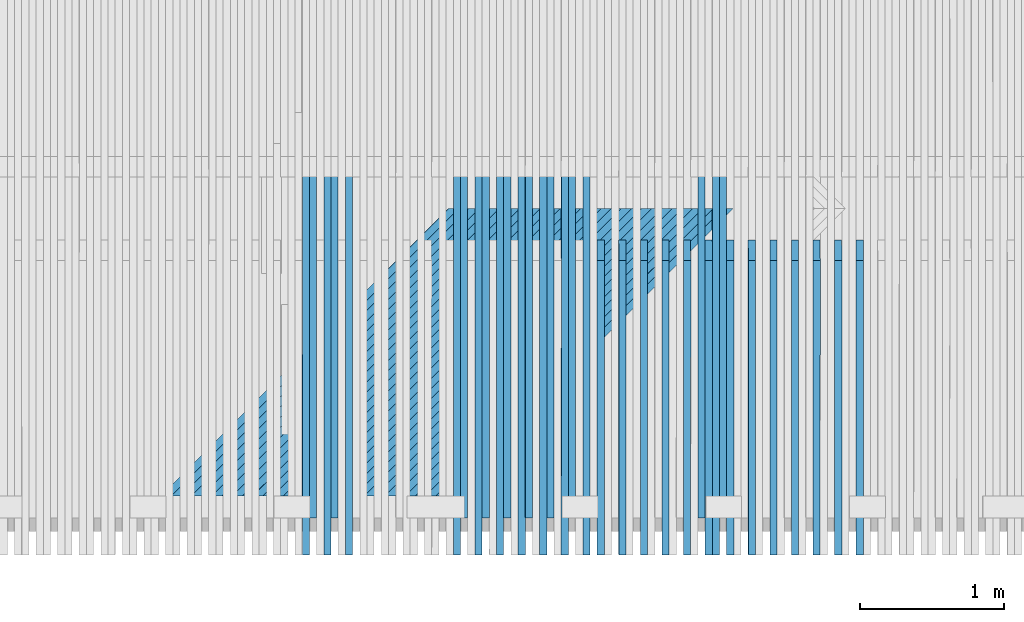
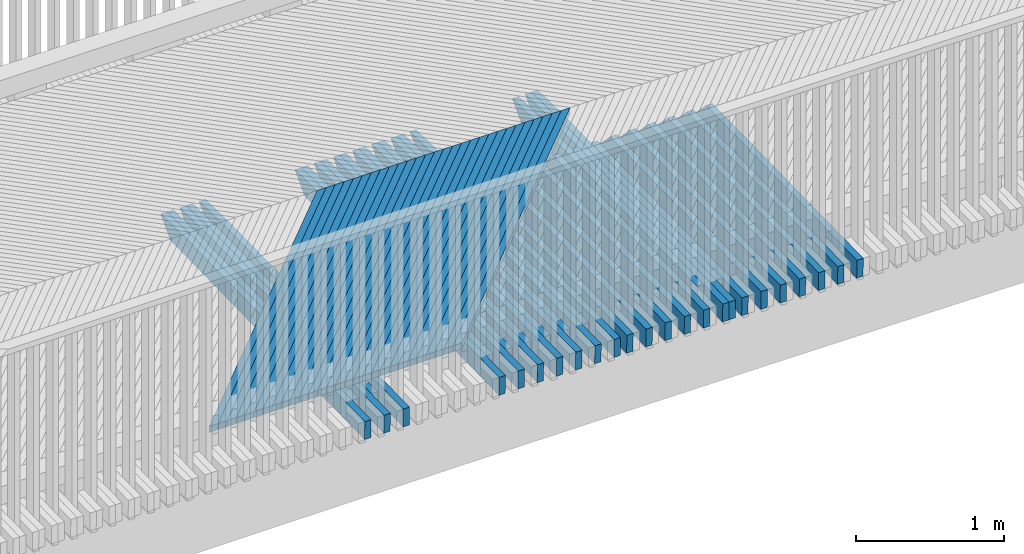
# One storey, part 30 of 47: 62 beams.
"""IFC2X3 building model written with IfcOpenShell, lengths in millimetres."""

from ifc_helpers import new_model, si_unit, frame, origin_with_axes, place, context, subcontext, project, spatial, faceted_brep, material, type_object, element, save


model = new_model("IFC2X3")

# Units and contexts
model_context = context("Model", 3, precision=1e-05, world=origin_with_axes())
body_context = subcontext(model_context, "Body", "Model", "MODEL_VIEW")
ifc_project = project(units=[si_unit("LENGTHUNIT", "METRE", prefix="MILLI"), si_unit("AREAUNIT", "SQUARE_METRE"), si_unit("VOLUMEUNIT", "CUBIC_METRE"), si_unit("MASSUNIT", "GRAM", prefix="KILO"), si_unit("TIMEUNIT", "SECOND"), si_unit("PLANEANGLEUNIT", "RADIAN"), si_unit("SOLIDANGLEUNIT", "STERADIAN"), si_unit("THERMODYNAMICTEMPERATUREUNIT", "DEGREE_CELSIUS"), si_unit("LUMINOUSINTENSITYUNIT", "LUMEN")], contexts=[model_context])

# Site, building, storey
site_placement = place(None, origin_with_axes())
site = spatial("IfcSite", under=ifc_project, at=site_placement, Name="Undefined", CompositionType="ELEMENT")
building_placement = place(site_placement, origin_with_axes())
building = spatial("IfcBuilding", under=site, at=building_placement, Name="Undefined", CompositionType="ELEMENT")
storey_placement = place(building_placement, origin_with_axes())
storey = spatial("IfcBuildingStorey", under=building, at=storey_placement, Name="Undefined", CompositionType="ELEMENT", Elevation=0.0)

# Beams
ifc_material = material(Name="TIMBER/Timber_Undefined")
beam_type_1 = type_object("IfcBeamType", Name="150*50", PredefinedType="NOTDEFINED")
for number, where, z_axis, x_axis, name in (
    (1, (11950.5710142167, 59958.5561921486, 3075.02655760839), (0.00648046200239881, -0.0199960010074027, 0.999779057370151), (0.000129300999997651, 0.999800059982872, 0.0199955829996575), "BEAM"),
    (2, (11800.5453592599, 59958.5561921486, 3075.99247467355), (0.00623128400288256, -0.0199960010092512, 0.999780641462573), (0.000124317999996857, 0.999800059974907, 0.0199956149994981), "BEAM"),
    (3, (11650.5194682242, 59958.5561921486, 3076.92100036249), (0.005982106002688, -0.0199960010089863, 0.999782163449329), (0.000119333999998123, 0.999800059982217, 0.0199956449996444), "BEAM"),
    (4, (11500.4933504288, 59958.5561921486, 3077.81213461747), (0.00573292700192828, -0.0199960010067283, 0.999783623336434), (0.000114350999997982, 0.999800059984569, 0.0199956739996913), "BEAM"),
    (5, (11350.4670151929, 59958.5561921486, 3078.66587738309), (0.00548374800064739, -0.0199960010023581, 0.99978502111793), (0.000109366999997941, 0.999800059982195, 0.019995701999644), "BEAM"),
    (6, (11200.4404718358, 59958.5561921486, 3079.48222860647), (0.00523456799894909, -0.0199960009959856, 0.999786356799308), (0.000104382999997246, 0.999800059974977, 0.0199957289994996), "BEAM"),
    (7, (11050.4137296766, 59958.5561921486, 3080.26118823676), (0.00498538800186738, -0.0199960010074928, 0.999787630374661), (9.93999999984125e-05, 0.999800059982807, 0.0199957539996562), "BEAM"),
):
    element("IfcBeam", number, at=place(storey_placement, frame(where, z_axis=z_axis, x_axis=x_axis)), inside=storey, type_object=beam_type_1, material=ifc_material, Name=name, ObjectType="150*50", context=body_context, shape_type="Brep", body=[
        faceted_brep([(6.18456397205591e-09, -24.9999999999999, -75.0000000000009), (-6.1918399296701e-09, -24.9999999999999, 74.9999999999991), (-6.19911588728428e-09, 25.0, 75.0), (6.18456397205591e-09, 24.9999999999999, -75.0), (2047.96936034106, -25.0000000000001, 75.0), (2047.96935975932, 25.0, 75.0), (2186.42645864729, 25.0, -75.0), (2186.42645915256, -25.0000000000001, -75.0)], [[[0, 1, 2, 3]], [[2, 1, 4, 5]], [[3, 2, 5, 6]], [[0, 3, 6, 7]], [[1, 0, 7, 4]], [[4, 7, 6, 5]]]),
    ])
beam_1_placement = place(storey_placement, frame((11000.3544131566, 60216.5046076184, 3085.67048511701), z_axis=(0.00498538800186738, -0.0199960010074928, 0.999787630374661), x_axis=(9.93999999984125e-05, 0.999800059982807, 0.0199957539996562)))
element("IfcBeam", 8, at=beam_1_placement, inside=storey, type_object=beam_type_1, material=ifc_material, Name="BEAM", ObjectType="150*50", context=body_context, shape_type="Brep", body=[
    faceted_brep([(6.18456397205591e-09, -24.9999999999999, -75.0000000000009), (-6.1918399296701e-09, -24.9999999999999, 74.9999999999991), (-6.19911588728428e-09, 25.0, 75.0), (6.18456397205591e-09, 24.9999999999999, -75.0), (2375.00494220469, 24.9999999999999, -75.0000000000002), (2375.00494218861, -25.0, -75.0), (2510.59248711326, -25.0, 60.5875455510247), (2150.42518973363, -25.0, 75.0000000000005), (2150.42518840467, 25.0, 74.9999999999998), (2510.59248707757, 25.0, 60.5875454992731)], [[[0, 1, 2, 3]], [[0, 3, 4, 5]], [[1, 0, 5, 6, 7]], [[2, 1, 7, 8]], [[4, 3, 2, 8, 9]], [[5, 4, 9, 6]], [[8, 7, 6, 9]]]),
])
beam_2_placement = place(storey_placement, frame((10950.4247696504, 59958.5561921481, 3080.75824977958), z_axis=(0.00490302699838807, -0.0199960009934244, 0.999788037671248), x_axis=(9.80599999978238e-05, 0.999800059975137, 0.0199957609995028)))
element("IfcBeam", 9, at=beam_2_placement, inside=storey, type_object=beam_type_1, material=ifc_material, Name="BEAM", ObjectType="150*50", context=body_context, shape_type="Brep", body=[
    faceted_brep([(6.18456397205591e-09, -24.9999999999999, -75.0000000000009), (-6.1918399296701e-09, -24.9999999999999, 74.9999999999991), (-6.19911588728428e-09, 25.0, 75.0), (6.18456397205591e-09, 24.9999999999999, -75.0), (2633.00494983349, 25.0000000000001, -75.0000000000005), (2633.00495050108, -24.9999999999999, -75.0000000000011), (2768.59248707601, -25.0, 60.5875366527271), (2408.42499905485, -25.0, 74.9999999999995), (2408.42501428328, 25.0000000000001, 74.9999999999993), (2768.5924870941, 25.0, 60.5875375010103)], [[[0, 1, 2, 3]], [[0, 3, 4, 5]], [[1, 0, 5, 6, 7]], [[2, 1, 7, 8]], [[4, 3, 2, 8, 9]], [[5, 4, 9, 6]], [[8, 7, 6, 9]]]),
])
beam_3_placement = place(storey_placement, frame((10900.3867980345, 59958.5561921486, 3081.00275622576), z_axis=(0.00473620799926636, -0.019996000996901, 0.999788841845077), x_axis=(9.44159999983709e-05, 0.999800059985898, 0.019995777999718)))
element("IfcBeam", 10, at=beam_3_placement, inside=storey, type_object=beam_type_1, material=ifc_material, Name="BEAM", ObjectType="150*50", context=body_context, shape_type="Brep", body=[
    faceted_brep([(6.18456397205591e-09, -24.9999999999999, -75.0000000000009), (-6.1918399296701e-09, -24.9999999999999, 74.9999999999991), (-6.19911588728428e-09, 25.0, 75.0), (6.18456397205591e-09, 24.9999999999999, -75.0), (2047.96936034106, -25.0000000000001, 75.0), (2047.96935975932, 25.0, 75.0), (2186.42645864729, 25.0, -75.0), (2186.42645915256, -25.0000000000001, -75.0)], [[[0, 1, 2, 3]], [[2, 1, 4, 5]], [[3, 2, 5, 6]], [[0, 3, 6, 7]], [[1, 0, 7, 4]], [[4, 7, 6, 5]]]),
])
beam_4_placement = place(storey_placement, frame((10850.326134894, 60216.5046076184, 3086.39957650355), z_axis=(0.00473620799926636, -0.019996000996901, 0.999788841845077), x_axis=(9.44159999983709e-05, 0.999800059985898, 0.019995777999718)))
element("IfcBeam", 11, at=beam_4_placement, inside=storey, type_object=beam_type_1, material=ifc_material, Name="BEAM", ObjectType="150*50", context=body_context, shape_type="Brep", body=[
    faceted_brep([(6.18456397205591e-09, -24.9999999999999, -75.0000000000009), (-6.1918399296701e-09, -24.9999999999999, 74.9999999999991), (-6.19911588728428e-09, 25.0, 75.0), (6.18456397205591e-09, 24.9999999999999, -75.0), (2375.00494220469, 24.9999999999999, -75.0000000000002), (2375.00494218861, -25.0, -75.0), (2510.59248711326, -25.0, 60.5875455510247), (2150.42518973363, -25.0, 75.0000000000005), (2150.42518840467, 25.0, 74.9999999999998), (2510.59248707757, 25.0, 60.5875454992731)], [[[0, 1, 2, 3]], [[0, 3, 4, 5]], [[1, 0, 5, 6, 7]], [[2, 1, 7, 8]], [[4, 3, 2, 8, 9]], [[5, 4, 9, 6]], [[8, 7, 6, 9]]]),
])
for number, where, z_axis, x_axis, name in (
    (12, (10750.3596862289, 59958.5561921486, 3081.70693252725), (0.00448702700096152, -0.019996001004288, 0.99978999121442), (8.94329999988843e-05, 0.999800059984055, 0.0199958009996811), "BEAM"),
    (13, (10600.3324035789, 59958.5561921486, 3082.37371709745), (0.00423784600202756, -0.0199960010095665, 0.999791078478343), (8.44489999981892e-05, 0.999800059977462, 0.0199958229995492), "BEAM"),
    (14, (10450.3049594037, 59958.5561921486, 3083.00310989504), (0.00398866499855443, -0.0199960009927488, 0.999792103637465), (7.94649999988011e-05, 0.999800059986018, 0.0199958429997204), "BEAM"),
    (15, (10300.2773630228, 59958.5561921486, 3083.59511088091), (0.00373948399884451, -0.0199960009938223, 0.999793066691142), (7.44819999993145e-05, 0.999800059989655, 0.019995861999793), "BEAM"),
    (16, (10150.2496237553, 59958.5561921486, 3084.14972001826), (0.00349030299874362, -0.0199960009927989, 0.99979396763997), (6.94979999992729e-05, 0.999800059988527, 0.0199958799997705), "BEAM"),
):
    element("IfcBeam", number, at=place(storey_placement, frame(where, z_axis=z_axis, x_axis=x_axis)), inside=storey, type_object=beam_type_1, material=ifc_material, Name=name, ObjectType="150*50", context=body_context, shape_type="Brep", body=[
        faceted_brep([(6.18456397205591e-09, -24.9999999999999, -75.0000000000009), (-6.1918399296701e-09, -24.9999999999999, 74.9999999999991), (-6.19911588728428e-09, 25.0, 75.0), (6.18456397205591e-09, 24.9999999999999, -75.0), (2047.96936034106, -25.0000000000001, 75.0), (2047.96935975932, 25.0, 75.0), (2186.42645864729, 25.0, -75.0), (2186.42645915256, -25.0000000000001, -75.0)], [[[0, 1, 2, 3]], [[2, 1, 4, 5]], [[3, 2, 5, 6]], [[0, 3, 6, 7]], [[1, 0, 7, 4]], [[4, 7, 6, 5]]]),
    ])
beam_5_placement = place(storey_placement, frame((10050.2600322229, 59958.5561921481, 3084.49725775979), z_axis=(0.00340794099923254, -0.0199960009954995, 0.999794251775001), x_axis=(6.81579999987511e-05, 0.999800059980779, 0.0199958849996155)))
element("IfcBeam", 17, at=beam_5_placement, inside=storey, type_object=beam_type_1, material=ifc_material, Name="BEAM", ObjectType="150*50", context=body_context, shape_type="Brep", body=[
    faceted_brep([(6.18456397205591e-09, -24.9999999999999, -75.0000000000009), (-6.1918399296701e-09, -24.9999999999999, 74.9999999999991), (-6.19911588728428e-09, 25.0, 75.0), (6.18456397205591e-09, 24.9999999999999, -75.0), (2633.00494983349, 25.0000000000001, -75.0000000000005), (2633.00495050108, -24.9999999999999, -75.0000000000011), (2768.59248707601, -25.0, 60.5875366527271), (2408.42499905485, -25.0, 74.9999999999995), (2408.42501428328, 25.0000000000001, 74.9999999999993), (2768.5924870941, 25.0, 60.5875375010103)], [[[0, 1, 2, 3]], [[0, 3, 4, 5]], [[1, 0, 5, 6, 7]], [[2, 1, 7, 8]], [[4, 3, 2, 8, 9]], [[5, 4, 9, 6]], [[8, 7, 6, 9]]]),
])
beam_6_placement = place(storey_placement, frame((9950.1530733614, 60216.5046076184, 3089.98889092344), z_axis=(0.00324112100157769, -0.0199960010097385, 0.999794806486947), x_axis=(6.45149999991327e-05, 0.999800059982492, 0.0199958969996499)))
element("IfcBeam", 18, at=beam_6_placement, inside=storey, type_object=beam_type_1, material=ifc_material, Name="BEAM", ObjectType="150*50", context=body_context, shape_type="Brep", body=[
    faceted_brep([(6.18456397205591e-09, -24.9999999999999, -75.0000000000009), (-6.1918399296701e-09, -24.9999999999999, 74.9999999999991), (-6.19911588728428e-09, 25.0, 75.0), (6.18456397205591e-09, 24.9999999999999, -75.0), (2375.00494220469, 24.9999999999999, -75.0000000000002), (2375.00494218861, -25.0, -75.0), (2510.59248711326, -25.0, 60.5875455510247), (2150.42518973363, -25.0, 75.0000000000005), (2150.42518840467, 25.0, 74.9999999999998), (2510.59248707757, 25.0, 60.5875454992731)], [[[0, 1, 2, 3]], [[0, 3, 4, 5]], [[1, 0, 5, 6, 7]], [[2, 1, 7, 8]], [[4, 3, 2, 8, 9]], [[5, 4, 9, 6]], [[8, 7, 6, 9]]]),
])
beam_7_placement = place(storey_placement, frame((9900.23207587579, 59958.5561921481, 3084.98955429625), z_axis=(0.00315875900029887, -0.019996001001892, 0.999795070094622), x_axis=(6.31749999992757e-05, 0.999800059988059, 0.0199959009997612)))
element("IfcBeam", 19, at=beam_7_placement, inside=storey, type_object=beam_type_1, material=ifc_material, Name="BEAM", ObjectType="150*50", context=body_context, shape_type="Brep", body=[
    faceted_brep([(6.18456397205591e-09, -24.9999999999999, -75.0000000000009), (-6.1918399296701e-09, -24.9999999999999, 74.9999999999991), (-6.19911588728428e-09, 25.0, 75.0), (6.18456397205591e-09, 24.9999999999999, -75.0), (2633.00494983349, 25.0000000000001, -75.0000000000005), (2633.00495050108, -24.9999999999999, -75.0000000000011), (2768.59248707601, -25.0, 60.5875366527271), (2408.42499905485, -25.0, 74.9999999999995), (2408.42501428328, 25.0000000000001, 74.9999999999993), (2768.5924870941, 25.0, 60.5875375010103)], [[[0, 1, 2, 3]], [[0, 3, 4, 5]], [[1, 0, 5, 6, 7]], [[2, 1, 7, 8]], [[4, 3, 2, 8, 9]], [[5, 4, 9, 6]], [[8, 7, 6, 9]]]),
])
beam_8_placement = place(storey_placement, frame((9800.12375142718, 60216.5046076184, 3090.4562373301), z_axis=(0.00299193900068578, -0.0199960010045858, 0.999795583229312), x_axis=(5.95309999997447e-05, 0.999800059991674, 0.0199959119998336)))
element("IfcBeam", 20, at=beam_8_placement, inside=storey, type_object=beam_type_1, material=ifc_material, Name="BEAM", ObjectType="150*50", context=body_context, shape_type="Brep", body=[
    faceted_brep([(6.18456397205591e-09, -24.9999999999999, -75.0000000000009), (-6.1918399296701e-09, -24.9999999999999, 74.9999999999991), (-6.19911588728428e-09, 25.0, 75.0), (6.18456397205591e-09, 24.9999999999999, -75.0), (2375.00494220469, 24.9999999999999, -75.0000000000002), (2375.00494218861, -25.0, -75.0), (2510.59248711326, -25.0, 60.5875455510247), (2150.42518973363, -25.0, 75.0000000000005), (2150.42518840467, 25.0, 74.9999999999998), (2510.59248707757, 25.0, 60.5875454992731)], [[[0, 1, 2, 3]], [[0, 3, 4, 5]], [[1, 0, 5, 6, 7]], [[2, 1, 7, 8]], [[4, 3, 2, 8, 9]], [[5, 4, 9, 6]], [[8, 7, 6, 9]]]),
])
beam_9_placement = place(storey_placement, frame((9750.20400149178, 59958.5561921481, 3085.44445889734), z_axis=(0.00290957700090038, -0.019996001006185, 0.99979582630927), x_axis=(5.81909999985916e-05, 0.999800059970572, 0.0199959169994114)))
element("IfcBeam", 21, at=beam_9_placement, inside=storey, type_object=beam_type_1, material=ifc_material, Name="BEAM", ObjectType="150*50", context=body_context, shape_type="Brep", body=[
    faceted_brep([(6.18456397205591e-09, -24.9999999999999, -75.0000000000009), (-6.1918399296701e-09, -24.9999999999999, 74.9999999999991), (-6.19911588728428e-09, 25.0, 75.0), (6.18456397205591e-09, 24.9999999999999, -75.0), (2633.00494983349, 25.0000000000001, -75.0000000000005), (2633.00495050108, -24.9999999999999, -75.0000000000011), (2768.59248707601, -25.0, 60.5875366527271), (2408.42499905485, -25.0, 74.9999999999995), (2408.42501428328, 25.0000000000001, 74.9999999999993), (2768.5924870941, 25.0, 60.5875375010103)], [[[0, 1, 2, 3]], [[0, 3, 4, 5]], [[1, 0, 5, 6, 7]], [[2, 1, 7, 8]], [[4, 3, 2, 8, 9]], [[5, 4, 9, 6]], [[8, 7, 6, 9]]]),
])
beam_10_placement = place(storey_placement, frame((9650.0943176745, 60216.5046076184, 3090.88619146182), z_axis=(0.00274275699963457, -0.0199960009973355, 0.999796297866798), x_axis=(5.45469999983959e-05, 0.999800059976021, 0.0199959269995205)))
element("IfcBeam", 22, at=beam_10_placement, inside=storey, type_object=beam_type_1, material=ifc_material, Name="BEAM", ObjectType="150*50", context=body_context, shape_type="Brep", body=[
    faceted_brep([(6.18456397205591e-09, -24.9999999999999, -75.0000000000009), (-6.1918399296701e-09, -24.9999999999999, 74.9999999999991), (-6.19911588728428e-09, 25.0, 75.0), (6.18456397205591e-09, 24.9999999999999, -75.0), (2375.00494220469, 24.9999999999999, -75.0000000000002), (2375.00494218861, -25.0, -75.0), (2510.59248711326, -25.0, 60.5875455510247), (2150.42518973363, -25.0, 75.0000000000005), (2150.42518840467, 25.0, 74.9999999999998), (2510.59248707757, 25.0, 60.5875454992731)], [[[0, 1, 2, 3]], [[0, 3, 4, 5]], [[1, 0, 5, 6, 7]], [[2, 1, 7, 8]], [[4, 3, 2, 8, 9]], [[5, 4, 9, 6]], [[8, 7, 6, 9]]]),
])
beam_11_placement = place(storey_placement, frame((9600.17581839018, 59958.5561921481, 3085.86197153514), z_axis=(0.00266039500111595, -0.0199960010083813, 0.999796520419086), x_axis=(5.3207999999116e-05, 0.999800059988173, 0.0199959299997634)))
element("IfcBeam", 23, at=beam_11_placement, inside=storey, type_object=beam_type_1, material=ifc_material, Name="BEAM", ObjectType="150*50", context=body_context, shape_type="Brep", body=[
    faceted_brep([(6.18456397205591e-09, -24.9999999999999, -75.0000000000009), (-6.1918399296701e-09, -24.9999999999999, 74.9999999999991), (-6.19911588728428e-09, 25.0, 75.0), (6.18456397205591e-09, 24.9999999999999, -75.0), (2633.00494983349, 25.0000000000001, -75.0000000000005), (2633.00495050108, -24.9999999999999, -75.0000000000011), (2768.59248707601, -25.0, 60.5875366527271), (2408.42499905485, -25.0, 74.9999999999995), (2408.42501428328, 25.0000000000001, 74.9999999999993), (2768.5924870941, 25.0, 60.5875375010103)], [[[0, 1, 2, 3]], [[0, 3, 4, 5]], [[1, 0, 5, 6, 7]], [[2, 1, 7, 8]], [[4, 3, 2, 8, 9]], [[5, 4, 9, 6]], [[8, 7, 6, 9]]]),
])
beam_12_placement = place(storey_placement, frame((9500.06478142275, 60216.5046076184, 3091.2787532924), z_axis=(0.00249357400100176, -0.019996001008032, 0.999796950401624), x_axis=(4.95639999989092e-05, 0.999800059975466, 0.0199959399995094)))
element("IfcBeam", 24, at=beam_12_placement, inside=storey, type_object=beam_type_1, material=ifc_material, Name="BEAM", ObjectType="150*50", context=body_context, shape_type="Brep", body=[
    faceted_brep([(6.18456397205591e-09, -24.9999999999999, -75.0000000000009), (-6.1918399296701e-09, -24.9999999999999, 74.9999999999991), (-6.19911588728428e-09, 25.0, 75.0), (6.18456397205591e-09, 24.9999999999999, -75.0), (2375.00494220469, 24.9999999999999, -75.0000000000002), (2375.00494218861, -25.0, -75.0), (2510.59248711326, -25.0, 60.5875455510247), (2150.42518973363, -25.0, 75.0000000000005), (2150.42518840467, 25.0, 74.9999999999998), (2510.59248707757, 25.0, 60.5875454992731)], [[[0, 1, 2, 3]], [[0, 3, 4, 5]], [[1, 0, 5, 6, 7]], [[2, 1, 7, 8]], [[4, 3, 2, 8, 9]], [[5, 4, 9, 6]], [[8, 7, 6, 9]]]),
])
beam_13_placement = place(storey_placement, frame((9450.14753589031, 59958.5561921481, 3086.24209218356), z_axis=(0.00241121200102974, -0.0199960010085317, 0.999797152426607), x_axis=(4.82239999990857e-05, 0.999800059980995, 0.01999594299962)))
element("IfcBeam", 25, at=beam_13_placement, inside=storey, type_object=beam_type_1, material=ifc_material, Name="BEAM", ObjectType="150*50", context=body_context, shape_type="Brep", body=[
    faceted_brep([(6.18456397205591e-09, -24.9999999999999, -75.0000000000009), (-6.1918399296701e-09, -24.9999999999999, 74.9999999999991), (-6.19911588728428e-09, 25.0, 75.0), (6.18456397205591e-09, 24.9999999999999, -75.0), (2633.00494983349, 25.0000000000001, -75.0000000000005), (2633.00495050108, -24.9999999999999, -75.0000000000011), (2768.59248707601, -25.0, 60.5875366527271), (2408.42499905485, -25.0, 74.9999999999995), (2408.42501428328, 25.0000000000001, 74.9999999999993), (2768.5924870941, 25.0, 60.5875375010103)], [[[0, 1, 2, 3]], [[0, 3, 4, 5]], [[1, 0, 5, 6, 7]], [[2, 1, 7, 8]], [[4, 3, 2, 8, 9]], [[5, 4, 9, 6]], [[8, 7, 6, 9]]]),
])
beam_14_placement = place(storey_placement, frame((9350.03515199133, 60216.5046076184, 3091.63392279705), z_axis=(0.00224439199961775, -0.0199960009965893, 0.99979754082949), x_axis=(4.45799999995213e-05, 0.999800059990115, 0.0199959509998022)))
element("IfcBeam", 26, at=beam_14_placement, inside=storey, type_object=beam_type_1, material=ifc_material, Name="BEAM", ObjectType="150*50", context=body_context, shape_type="Brep", body=[
    faceted_brep([(6.18456397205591e-09, -24.9999999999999, -75.0000000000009), (-6.1918399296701e-09, -24.9999999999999, 74.9999999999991), (-6.19911588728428e-09, 25.0, 75.0), (6.18456397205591e-09, 24.9999999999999, -75.0), (2375.00494220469, 24.9999999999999, -75.0000000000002), (2375.00494218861, -25.0, -75.0), (2510.59248711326, -25.0, 60.5875455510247), (2150.42518973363, -25.0, 75.0000000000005), (2150.42518840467, 25.0, 74.9999999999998), (2510.59248707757, 25.0, 60.5875454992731)], [[[0, 1, 2, 3]], [[0, 3, 4, 5]], [[1, 0, 5, 6, 7]], [[2, 1, 7, 8]], [[4, 3, 2, 8, 9]], [[5, 4, 9, 6]], [[8, 7, 6, 9]]]),
])
beam_15_placement = place(storey_placement, frame((9300.11916331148, 59958.5561921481, 3086.58482081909), z_axis=(0.00216203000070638, -0.0199960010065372, 0.999797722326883), x_axis=(4.32399999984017e-05, 0.999800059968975, 0.0199959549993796)))
element("IfcBeam", 27, at=beam_15_placement, inside=storey, type_object=beam_type_1, material=ifc_material, Name="BEAM", ObjectType="150*50", context=body_context, shape_type="Brep", body=[
    faceted_brep([(6.18456397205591e-09, -24.9999999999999, -75.0000000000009), (-6.1918399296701e-09, -24.9999999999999, 74.9999999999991), (-6.19911588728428e-09, 25.0, 75.0), (6.18456397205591e-09, 24.9999999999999, -75.0), (2633.00494983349, 25.0000000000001, -75.0000000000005), (2633.00495050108, -24.9999999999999, -75.0000000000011), (2768.59248707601, -25.0, 60.5875366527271), (2408.42499905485, -25.0, 74.9999999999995), (2408.4249624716, 24.9999999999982, 74.9999999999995), (2768.5924870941, 25.0, 60.5875375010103)], [[[0, 1, 2, 3]], [[0, 3, 4, 5]], [[1, 0, 5, 6, 7]], [[2, 1, 7, 8]], [[4, 3, 2, 8, 9]], [[5, 4, 9, 6]], [[8, 7, 6, 9]]]),
])
beam_16_placement = place(storey_placement, frame((9200.00543869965, 60216.5046076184, 3091.95169995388), z_axis=(0.0019952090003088, -0.0199960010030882, 0.999798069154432), x_axis=(3.95959999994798e-05, 0.999800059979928, 0.0199959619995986)))
element("IfcBeam", 28, at=beam_16_placement, inside=storey, type_object=beam_type_1, material=ifc_material, Name="BEAM", ObjectType="150*50", context=body_context, shape_type="Brep", body=[
    faceted_brep([(6.18456397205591e-09, -24.9999999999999, -75.0000000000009), (-6.1918399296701e-09, -24.9999999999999, 74.9999999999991), (-6.19911588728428e-09, 25.0, 75.0), (6.18456397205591e-09, 24.9999999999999, -75.0), (2375.00494220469, 24.9999999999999, -75.0000000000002), (2375.00494218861, -25.0, -75.0), (2510.59248711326, -25.0, 60.5875455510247), (2150.42518973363, -25.0, 75.0000000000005), (2150.42518840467, 25.0, 74.9999999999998), (2510.59248707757, 25.0, 60.5875454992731)], [[[0, 1, 2, 3]], [[0, 3, 4, 5]], [[1, 0, 5, 6, 7]], [[2, 1, 7, 8]], [[4, 3, 2, 8, 9]], [[5, 4, 9, 6]], [[8, 7, 6, 9]]]),
])
for number, where, z_axis, x_axis, name in (
    (29, (9150.09070997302, 59958.5561921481, 3086.89015742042), (0.00191284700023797, -0.0199960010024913, 0.99979823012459), (3.82569999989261e-05, 0.999800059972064, 0.0199959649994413), "BEAM"),
    (30, (8399.94755806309, 59958.5561921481, 3087.85595933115), (0.000666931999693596, -0.0199960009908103, 0.999799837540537), (1.33379999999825e-05, 0.99980005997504, 0.0199959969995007), "BEAM"),
):
    element("IfcBeam", number, at=place(storey_placement, frame(where, z_axis=z_axis, x_axis=x_axis)), inside=storey, type_object=beam_type_1, material=ifc_material, Name=name, ObjectType="150*50", context=body_context, shape_type="Brep", body=[
        faceted_brep([(6.18456397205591e-09, -24.9999999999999, -75.0000000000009), (-6.1918399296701e-09, -24.9999999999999, 74.9999999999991), (-6.19911588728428e-09, 25.0, 75.0), (6.18456397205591e-09, 24.9999999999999, -75.0), (2633.00494983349, 25.0000000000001, -75.0000000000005), (2633.00495050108, -24.9999999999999, -75.0000000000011), (2768.59248707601, -25.0, 60.5875366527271), (2408.42499905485, -25.0, 74.9999999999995), (2408.42501428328, 25.0000000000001, 74.9999999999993), (2768.5924870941, 25.0, 60.5875375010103)], [[[0, 1, 2, 3]], [[0, 3, 4, 5]], [[1, 0, 5, 6, 7]], [[2, 1, 7, 8]], [[4, 3, 2, 8, 9]], [[5, 4, 9, 6]], [[8, 7, 6, 9]]]),
    ])
beam_17_placement = place(storey_placement, frame((8299.82591977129, 60216.5046076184, 3093.07312264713), z_axis=(0.000500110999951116, -0.0199960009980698, 0.999799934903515), x_axis=(9.69399999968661e-06, 0.999800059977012, 0.0199959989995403)))
element("IfcBeam", 31, at=beam_17_placement, inside=storey, type_object=beam_type_1, material=ifc_material, Name="BEAM", ObjectType="150*50", context=body_context, shape_type="Brep", body=[
    faceted_brep([(6.18456397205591e-09, -24.9999999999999, -75.0000000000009), (-6.1918399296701e-09, -24.9999999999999, 74.9999999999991), (-6.19911588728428e-09, 25.0, 75.0), (6.18456397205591e-09, 24.9999999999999, -75.0), (2375.00494220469, 24.9999999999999, -75.0000000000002), (2375.00494218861, -25.0, -75.0), (2510.59248711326, -25.0, 60.5875455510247), (2150.42518973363, -25.0, 75.0000000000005), (2150.42518840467, 25.0, 74.9999999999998), (2510.59248707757, 25.0, 60.5875454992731)], [[[0, 1, 2, 3]], [[0, 3, 4, 5]], [[1, 0, 5, 6, 7]], [[2, 1, 7, 8]], [[4, 3, 2, 8, 9]], [[5, 4, 9, 6]], [[8, 7, 6, 9]]]),
])
beam_18_placement = place(storey_placement, frame((8249.91881587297, 59958.5561921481, 3087.93694341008), z_axis=(0.000417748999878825, -0.0199960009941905, 0.999799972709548), x_axis=(8.35499999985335e-06, 0.999800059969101, 0.0199959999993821)))
element("IfcBeam", 32, at=beam_18_placement, inside=storey, type_object=beam_type_1, material=ifc_material, Name="BEAM", ObjectType="150*50", context=body_context, shape_type="Brep", body=[
    faceted_brep([(6.18456397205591e-09, -24.9999999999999, -75.0000000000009), (-6.1918399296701e-09, -24.9999999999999, 74.9999999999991), (-6.19911588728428e-09, 25.0, 75.0), (6.18456397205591e-09, 24.9999999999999, -75.0), (2633.00494983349, 25.0000000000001, -75.0000000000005), (2633.00495050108, -24.9999999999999, -75.0000000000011), (2768.59248707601, -25.0, 60.5875366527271), (2408.42499905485, -25.0, 74.9999999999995), (2408.4249624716, 24.9999999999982, 74.9999999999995), (2768.5924870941, 25.0, 60.5875375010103)], [[[0, 1, 2, 3]], [[0, 3, 4, 5]], [[1, 0, 5, 6, 7]], [[2, 1, 7, 8]], [[4, 3, 2, 8, 9]], [[5, 4, 9, 6]], [[8, 7, 6, 9]]]),
])
beam_19_placement = place(storey_placement, frame((8149.79588040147, 60216.5046076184, 3093.12915294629), z_axis=(0.000250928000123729, -0.019996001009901, 0.999800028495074), x_axis=(4.71100000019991e-06, 0.999800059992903, 0.019995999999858)))
element("IfcBeam", 33, at=beam_19_placement, inside=storey, type_object=beam_type_1, material=ifc_material, Name="BEAM", ObjectType="150*50", context=body_context, shape_type="Brep", body=[
    faceted_brep([(6.18456397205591e-09, -24.9999999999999, -75.0000000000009), (-6.1918399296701e-09, -24.9999999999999, 74.9999999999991), (-6.19911588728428e-09, 25.0, 75.0), (6.18456397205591e-09, 24.9999999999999, -75.0), (2375.00494220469, 24.9999999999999, -75.0000000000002), (2375.00494218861, -25.0, -75.0), (2510.59248711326, -25.0, 60.5875455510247), (2150.42518973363, -25.0, 75.0000000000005), (2150.42518840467, 25.0, 74.9999999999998), (2510.59248707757, 25.0, 60.5875454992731)], [[[0, 1, 2, 3]], [[0, 3, 4, 5]], [[1, 0, 5, 6, 7]], [[2, 1, 7, 8]], [[4, 3, 2, 8, 9]], [[5, 4, 9, 6]], [[8, 7, 6, 9]]]),
])
beam_20_placement = place(storey_placement, frame((8099.89005815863, 59958.5561921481, 3087.98053537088), z_axis=(0.000168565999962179, -0.0199960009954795, 0.999800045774), x_axis=(3.37099999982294e-06, 0.999800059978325, 0.0199960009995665)))
element("IfcBeam", 34, at=beam_20_placement, inside=storey, type_object=beam_type_1, material=ifc_material, Name="BEAM", ObjectType="150*50", context=body_context, shape_type="Brep", body=[
    faceted_brep([(6.18456397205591e-09, -24.9999999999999, -75.0000000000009), (-6.1918399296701e-09, -24.9999999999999, 74.9999999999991), (-6.19911588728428e-09, 25.0, 75.0), (6.18456397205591e-09, 24.9999999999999, -75.0), (2633.00494983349, 25.0000000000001, -75.0000000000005), (2633.00495050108, -24.9999999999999, -75.0000000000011), (2768.59248707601, -25.0, 60.5875366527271), (2408.42499905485, -25.0, 74.9999999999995), (2408.42501428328, 25.0000000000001, 74.9999999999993), (2768.5924870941, 25.0, 60.5875375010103)], [[[0, 1, 2, 3]], [[0, 3, 4, 5]], [[1, 0, 5, 6, 7]], [[2, 1, 7, 8]], [[4, 3, 2, 8, 9]], [[5, 4, 9, 6]], [[8, 7, 6, 9]]]),
])
beam_type_2 = type_object("IfcBeamType", Name="50*50", PredefinedType="NOTDEFINED")
for number, where, z_axis, x_axis, name in (
    (35, (11035.4872718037, 62364.5001003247, 3228.47043325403), (0.707040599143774, -0.706981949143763, -0.016435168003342), (-0.707165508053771, -0.706948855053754, -0.0118431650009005), "BEAM"),
    (36, (10964.7639163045, 62364.5001003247, 3228.82282998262), (0.707042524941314, -0.706981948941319, -0.0163521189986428), (-0.707164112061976, -0.706948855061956, -0.0119262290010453), "BEAM"),
    (37, (10894.0405199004, 62364.5001003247, 3229.16691949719), (0.707044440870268, -0.706981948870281, -0.0162690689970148), (-0.707162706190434, -0.706948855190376, -0.0120092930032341), "BEAM"),
    (38, (10823.3170835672, 62364.5001003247, 3229.50270179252), (0.70704634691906, -0.706981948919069, -0.0161860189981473), (-0.707161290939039, -0.706948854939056, -0.0120923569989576), "BEAM"),
    (39, (10752.5936082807, 62364.5001003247, 3229.83017686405), (0.70704824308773, -0.706981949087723, -0.0161029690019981), (-0.707159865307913, -0.706948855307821, -0.0121754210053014), "BEAM"),
    (40, (10681.8700950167, 62364.5001003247, 3230.14934470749), (0.707050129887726, -0.706981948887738, -0.0160199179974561), (-0.707158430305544, -0.706948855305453, -0.0122584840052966), "BEAM"),
    (41, (10611.1465447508, 62364.5001003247, 3230.46020531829), (0.707052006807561, -0.70698194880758, -0.0159368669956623), (-0.707156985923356, -0.706948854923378, -0.0123415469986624), "BEAM"),
    (42, (10540.422958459, 62364.5001003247, 3230.76275869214), (0.707053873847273, -0.70698194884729, -0.0158538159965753), (-0.707155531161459, -0.706948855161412, -0.0124246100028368), "BEAM"),
    (43, (10469.6993371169, 62364.5001003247, 3231.05700482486), (0.707055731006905, -0.706981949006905, -0.0157707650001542), (-0.707154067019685, -0.706948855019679, -0.0125076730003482), "BEAM"),
    (44, (10398.9756817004, 62364.5001003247, 3231.34294371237), (0.707057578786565, -0.706981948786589, -0.0156877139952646), (-0.707152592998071, -0.706948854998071, -0.0125907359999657), "BEAM"),
    (45, (10328.2519931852, 62364.5001003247, 3231.62057535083), (0.707059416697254, -0.706981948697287, -0.0156046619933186), (-0.707151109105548, -0.706948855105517, -0.0126737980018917), "BEAM"),
    (46, (10257.5282725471, 62364.5001003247, 3231.88989973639), (0.707061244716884, -0.706981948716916, -0.0155216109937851), (-0.707149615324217, -0.706948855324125, -0.0127568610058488), "BEAM"),
    (47, (10186.8045207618, 62364.5001003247, 3232.15091686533), (0.707063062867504, -0.70698194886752, -0.0154385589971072), (-0.707148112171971, -0.706948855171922, -0.0128399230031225), "BEAM"),
    (48, (10116.0807388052, 62364.5001003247, 3232.40362673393), (0.707064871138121, -0.706981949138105, -0.0153555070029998), (-0.707146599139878, -0.706948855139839, -0.0129229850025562), "BEAM"),
    (49, (10045.356927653, 62364.5001003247, 3232.64802933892), (0.707066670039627, -0.706981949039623, -0.0152724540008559), (-0.707145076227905, -0.706948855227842, -0.0130060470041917), "BEAM"),
    (50, (9974.63308828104, 62364.5001003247, 3232.8841246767), (0.707068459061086, -0.706981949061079, -0.0151894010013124), (-0.707143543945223, -0.706948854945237, -0.0130891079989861), "BEAM"),
    (51, (9903.90922166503, 62364.5001003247, 3233.11191274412), (0.707070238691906, -0.706981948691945, -0.0151063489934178), (-0.707142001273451, -0.706948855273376, -0.0131721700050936), "BEAM"),
    (52, (9833.18532878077, 62364.5001003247, 3233.33139353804), (0.707072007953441, -0.706981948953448, -0.0150232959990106), (-0.707140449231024, -0.706948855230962, -0.0132552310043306), "BEAM"),
    (53, (9762.46141060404, 62364.5001003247, 3233.54256705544), (0.707073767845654, -0.706981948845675, -0.0149402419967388), (-0.707138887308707, -0.706948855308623, -0.0133382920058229), "BEAM"),
    (54, (9691.73746811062, 62364.5001003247, 3233.7454332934), (0.707075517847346, -0.706981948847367, -0.0148571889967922), (-0.707137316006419, -0.706948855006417, -0.0134213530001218), "BEAM"),
    (55, (9621.01350227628, 62364.5001003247, 3233.93999224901), (0.707077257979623, -0.706981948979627, -0.0147741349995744), (-0.707135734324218, -0.706948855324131, -0.0135044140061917), "BEAM"),
    (56, (9550.28951407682, 62364.5001003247, 3234.12624391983), (0.707078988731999, -0.706981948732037, -0.0146910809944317), (-0.70713414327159, -0.706948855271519, -0.0135874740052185), "BEAM"),
    (57, (9479.565504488, 62364.5001003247, 3234.30418830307), (0.70708070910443, -0.706981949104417, -0.0146080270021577), (-0.70713254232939, -0.706948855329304, -0.0136705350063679), "BEAM"),
    (58, (9408.8414744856, 62364.5001003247, 3234.4738253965), (0.707082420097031, -0.706981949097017, -0.0145249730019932), (-0.707130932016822, -0.706948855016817, -0.0137535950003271), "BEAM"),
    (59, (9338.11742504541, 62364.5001003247, 3234.63515519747), (0.707084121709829, -0.706981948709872, -0.0144419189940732), (-0.707129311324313, -0.70694885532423, -0.0138366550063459), "BEAM"),
    (60, (9267.39335714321, 62364.5001003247, 3234.78817770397), (0.70708581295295, -0.706981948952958, -0.0143588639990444), (-0.707127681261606, -0.706948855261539, -0.0139197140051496), "BEAM"),
    (61, (9196.66927175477, 62364.5001003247, 3234.93289291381), (0.707087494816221, -0.70698194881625, -0.0142758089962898), (-0.707126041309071, -0.706948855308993, -0.0140027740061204), "BEAM"),
    (62, (9125.94516985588, 62364.5001003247, 3235.06930082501), (0.707089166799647, -0.706981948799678, -0.0141927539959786), (-0.707124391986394, -0.706948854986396, -0.0140858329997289), "BEAM"),
):
    element("IfcBeam", number, at=place(storey_placement, frame(where, z_axis=z_axis, x_axis=x_axis)), inside=storey, type_object=beam_type_2, material=ifc_material, Name=name, ObjectType="50*50", context=body_context, shape_type="Brep", body=[
        faceted_brep([(24.8942457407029, 24.9999999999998, -24.9999999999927), (-25.0086637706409, 24.9999999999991, 25.0), (2804.3406783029, 24.9999999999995, 25.0000000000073), (2854.34301907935, 24.9999999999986, -24.9999999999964), (-26.4222658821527, -25.0000000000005, 25.0000000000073), (2802.92643296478, -25.0000000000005, 25.0000000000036), (23.4806436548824, -25.0000000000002, -25.0), (2852.92877373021, -25.0000000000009, -24.9999999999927)], [[[0, 1, 2, 3]], [[1, 4, 5, 2]], [[4, 6, 7, 5]], [[6, 0, 3, 7]], [[5, 7, 3, 2]], [[6, 4, 1, 0]]]),
    ])

save(model, "model.ifc")
